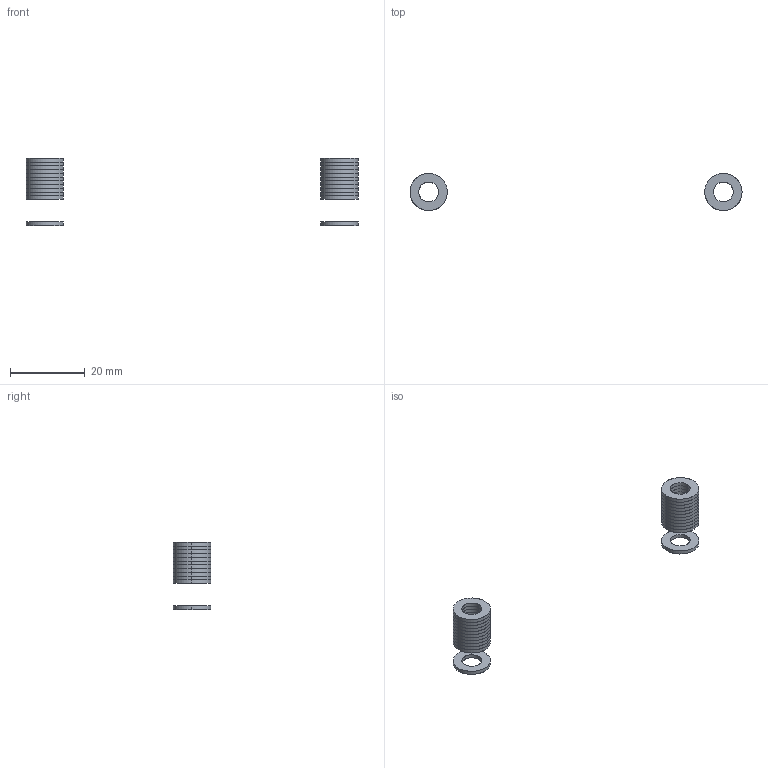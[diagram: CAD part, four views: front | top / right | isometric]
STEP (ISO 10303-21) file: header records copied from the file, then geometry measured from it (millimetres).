
FILE_DESCRIPTION(/* description */ (''),/* implementation_level */ '2;1');
FILE_NAME(/* name */ '7.x-cart#7.5#PWF5',/* time_stamp */ '2014-12-01T20:17:36+01:00',/* author */ (''),/* organization */ (''),/* preprocessor_version */ 'ST-DEVELOPER v14',/* originating_system */ '',/* authorisation */ '');
FILE_SCHEMA (('AUTOMOTIVE_DESIGN'));
Length unit declared in the file: millimetre
Products named in the file (2): Document; washer DIN125-like, form A, M5
Assembly tree (24 placements, depth 2):
  Document
    washer DIN125-like, form A, M5  x24
Bounding box: 89 x 9.98 x 18 mm (x, y, z)
Surface area: 3870.5 mm2 (no closed solid volume)
Topology: 0 solids, 144 shells, 144 faces, 480 edges, 480 vertices
Faces by surface type: bspline 96, plane 48
Entity records: 727 total; most frequent: CARTESIAN_POINT 281, DIRECTION 56, AXIS2_PLACEMENT_3D 29, PRODUCT_DEFINITION_SHAPE 26, ITEM_DEFINED_TRANSFORMATION 24, CONTEXT_DEPENDENT_SHAPE_REPRESENTATION 24, NEXT_ASSEMBLY_USAGE_OCCURRENCE 24, B_SPLINE_CURVE_WITH_KNOTS 24
